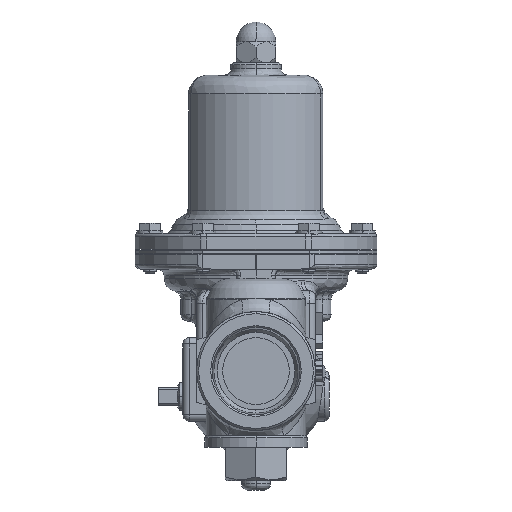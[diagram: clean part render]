
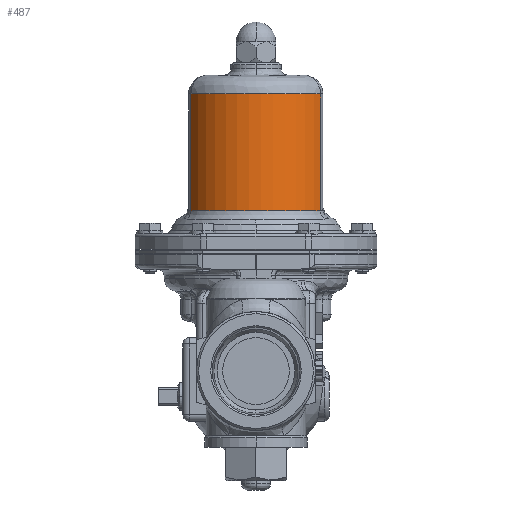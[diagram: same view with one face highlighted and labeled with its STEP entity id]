
A CAD part, left-side view. The second image highlights one B-rep face of the part: STEP entity #487.
In plain terms, the highlighted cylindrical face has radius 35.568 mm (diameter 71.135 mm), a partial arc.
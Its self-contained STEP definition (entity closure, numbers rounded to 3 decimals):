
#487=ADVANCED_FACE('',(#1421),#1420,.T.);
#1420=CYLINDRICAL_SURFACE('',#6595,35.568);
#1421=FACE_OUTER_BOUND('',#6596,.T.);
#6592=CARTESIAN_POINT('',(0.,0.,0.));
#6593=DIRECTION('',(0.,0.,1.));
#6594=DIRECTION('',(1.,0.,0.));
#6595=AXIS2_PLACEMENT_3D('',#6592,#6593,#6594);
#6596=EDGE_LOOP('',(#12763,#12764,#12765,#12766));
#12763=ORIENTED_EDGE('',*,*,#15146,.T.);
#12764=ORIENTED_EDGE('',*,*,#15118,.T.);
#12765=ORIENTED_EDGE('',*,*,#15147,.T.);
#12766=ORIENTED_EDGE('',*,*,#15148,.T.);
#15118=EDGE_CURVE('',#16984,#16977,#16985,.T.);
#15146=EDGE_CURVE('',#17171,#16984,#17172,.T.);
#15147=EDGE_CURVE('',#16977,#17178,#17179,.T.);
#15148=EDGE_CURVE('',#17178,#17171,#17185,.T.);
#16977=VERTEX_POINT('',#24934);
#16984=VERTEX_POINT('',#24939);
#16985=CIRCLE('',#24943,35.568);
#17171=VERTEX_POINT('',#25086);
#17172=LINE('',#25087,#25088);
#17178=VERTEX_POINT('',#25090);
#17179=LINE('',#25091,#25092);
#17185=CIRCLE('',#25097,35.568);
#24934=CARTESIAN_POINT('',(-17.569,-30.925,20.033));
#24939=CARTESIAN_POINT('',(-17.09,31.193,20.033));
#24940=CARTESIAN_POINT('',(0.,0.,20.033));
#24941=DIRECTION('',(0.,0.,1.));
#24942=DIRECTION('',(-0.48,0.877,0.));
#24943=AXIS2_PLACEMENT_3D('',#24940,#24941,#24942);
#25086=CARTESIAN_POINT('',(-17.09,31.193,76.));
#25087=CARTESIAN_POINT('',(-17.09,31.193,76.));
#25088=VECTOR('',#25089,55.967);
#25089=DIRECTION('',(0.,0.,-1.));
#25090=CARTESIAN_POINT('',(-17.569,-30.925,76.));
#25091=CARTESIAN_POINT('',(-17.569,-30.925,20.033));
#25092=VECTOR('',#25093,55.967);
#25093=DIRECTION('',(0.,0.,1.));
#25094=CARTESIAN_POINT('',(0.,0.,76.));
#25095=DIRECTION('',(0.,0.,-1.));
#25096=DIRECTION('',(1.,0.,0.));
#25097=AXIS2_PLACEMENT_3D('',#25094,#25095,#25096);
